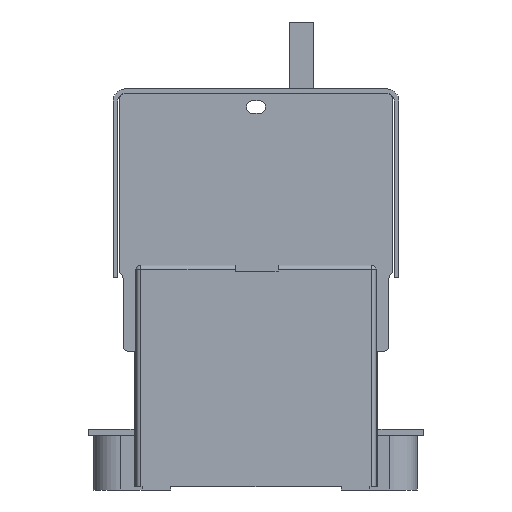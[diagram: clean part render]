
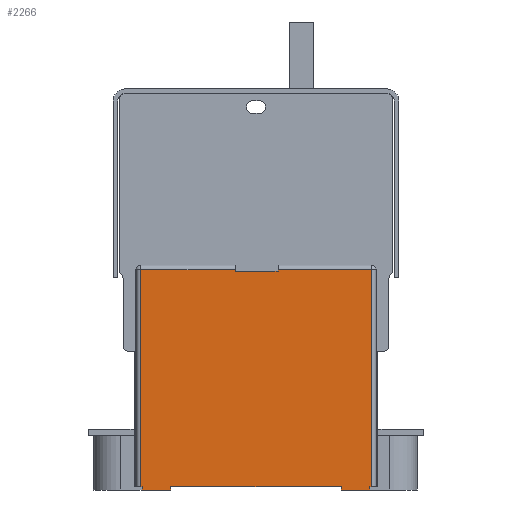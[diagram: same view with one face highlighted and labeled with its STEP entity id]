
A CAD part, left-side view. The second image highlights one B-rep face of the part: STEP entity #2266.
In plain terms, the highlighted planar face has unit normal (-1, 0, 0).
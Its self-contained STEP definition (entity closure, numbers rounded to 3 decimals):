
#2266=ADVANCED_FACE('',(#3847),#2926,.F.);
#2926=PLANE('',#20960);
#3847=FACE_OUTER_BOUND('',#5012,.T.);
#5012=EDGE_LOOP('',(#10019,#10020,#10021,#10022,#10023,#10024,#10025,#10026,
#10027,#10028,#10029,#10030,#10031,#10032,#10033,#10034));
#10019=ORIENTED_EDGE('',*,*,#15156,.F.);
#10020=ORIENTED_EDGE('',*,*,#14946,.T.);
#10021=ORIENTED_EDGE('',*,*,#14770,.T.);
#10022=ORIENTED_EDGE('',*,*,#15158,.F.);
#10023=ORIENTED_EDGE('',*,*,#14773,.T.);
#10024=ORIENTED_EDGE('',*,*,#14906,.T.);
#10025=ORIENTED_EDGE('',*,*,#15159,.T.);
#10026=ORIENTED_EDGE('',*,*,#15160,.T.);
#10027=ORIENTED_EDGE('',*,*,#15161,.F.);
#10028=ORIENTED_EDGE('',*,*,#14993,.F.);
#10029=ORIENTED_EDGE('',*,*,#14998,.T.);
#10030=ORIENTED_EDGE('',*,*,#15162,.T.);
#10031=ORIENTED_EDGE('',*,*,#15006,.F.);
#10032=ORIENTED_EDGE('',*,*,#15000,.F.);
#10033=ORIENTED_EDGE('',*,*,#15163,.T.);
#10034=ORIENTED_EDGE('',*,*,#15164,.T.);
#12221=VERTEX_POINT('',#31231);
#12222=VERTEX_POINT('',#31233);
#12224=VERTEX_POINT('',#31239);
#12225=VERTEX_POINT('',#31240);
#12313=VERTEX_POINT('',#31545);
#12314=VERTEX_POINT('',#31549);
#12360=VERTEX_POINT('',#31730);
#12361=VERTEX_POINT('',#31731);
#12365=VERTEX_POINT('',#31740);
#12366=VERTEX_POINT('',#31745);
#12367=VERTEX_POINT('',#31746);
#12370=VERTEX_POINT('',#31754);
#12461=VERTEX_POINT('',#32042);
#12462=VERTEX_POINT('',#32047);
#12463=VERTEX_POINT('',#32049);
#12464=VERTEX_POINT('',#32053);
#14770=EDGE_CURVE('',#12222,#12221,#16957,.T.);
#14773=EDGE_CURVE('',#12224,#12225,#16959,.T.);
#14906=EDGE_CURVE('',#12225,#12314,#17029,.T.);
#14946=EDGE_CURVE('',#12313,#12222,#17045,.T.);
#14993=EDGE_CURVE('',#12360,#12361,#17080,.T.);
#14998=EDGE_CURVE('',#12360,#12365,#17085,.T.);
#15000=EDGE_CURVE('',#12366,#12367,#17087,.T.);
#15006=EDGE_CURVE('',#12367,#12370,#17093,.T.);
#15156=EDGE_CURVE('',#12313,#12461,#17230,.T.);
#15158=EDGE_CURVE('',#12224,#12221,#17231,.T.);
#15159=EDGE_CURVE('',#12314,#12462,#17232,.T.);
#15160=EDGE_CURVE('',#12462,#12463,#17233,.T.);
#15161=EDGE_CURVE('',#12361,#12463,#17234,.T.);
#15162=EDGE_CURVE('',#12365,#12370,#17235,.T.);
#15163=EDGE_CURVE('',#12366,#12464,#17236,.T.);
#15164=EDGE_CURVE('',#12464,#12461,#17237,.T.);
#16957=LINE('',#31232,#19017);
#16959=LINE('',#31238,#19019);
#17029=LINE('',#31550,#19089);
#17045=LINE('',#31630,#19105);
#17080=LINE('',#31729,#19140);
#17085=LINE('',#31741,#19145);
#17087=LINE('',#31744,#19147);
#17093=LINE('',#31757,#19153);
#17230=LINE('',#32041,#19290);
#17231=LINE('',#32045,#19291);
#17232=LINE('',#32046,#19292);
#17233=LINE('',#32048,#19293);
#17234=LINE('',#32050,#19294);
#17235=LINE('',#32051,#19295);
#17236=LINE('',#32052,#19296);
#17237=LINE('',#32054,#19297);
#19017=VECTOR('',#25290,1.);
#19019=VECTOR('',#25296,1.);
#19089=VECTOR('',#25584,1.);
#19105=VECTOR('',#25696,1.);
#19140=VECTOR('',#25801,1.);
#19145=VECTOR('',#25808,1.);
#19147=VECTOR('',#25812,1.);
#19153=VECTOR('',#25820,1.);
#19290=VECTOR('',#26073,1.);
#19291=VECTOR('',#26078,1.);
#19292=VECTOR('',#26079,1.);
#19293=VECTOR('',#26080,1.);
#19294=VECTOR('',#26081,1.);
#19295=VECTOR('',#26082,1.);
#19296=VECTOR('',#26083,1.);
#19297=VECTOR('',#26084,1.);
#20960=AXIS2_PLACEMENT_3D('',#32055,#26085,#26086);
#25290=DIRECTION('',(0.,0.,-1.));
#25296=DIRECTION('',(0.,0.,1.));
#25584=DIRECTION('',(0.,1.,0.));
#25696=DIRECTION('',(0.,1.,0.));
#25801=DIRECTION('',(0.,1.,0.));
#25808=DIRECTION('',(0.,0.,1.));
#25812=DIRECTION('',(0.,1.,0.));
#25820=DIRECTION('',(0.,0.,1.));
#26073=DIRECTION('',(0.,0.,-1.));
#26078=DIRECTION('',(0.,-1.,0.));
#26079=DIRECTION('',(0.,0.,-1.));
#26080=DIRECTION('',(0.,-1.,0.));
#26081=DIRECTION('',(0.,0.,1.));
#26082=DIRECTION('',(0.,-1.,0.));
#26083=DIRECTION('',(0.,0.,1.));
#26084=DIRECTION('',(0.,-1.,0.));
#26085=DIRECTION('',(1.,0.,0.));
#26086=DIRECTION('',(0.,0.,-1.));
#31231=CARTESIAN_POINT('',(-69.,-31.985,67.));
#31232=CARTESIAN_POINT('',(-69.,-31.985,69.1));
#31233=CARTESIAN_POINT('',(-69.,-31.985,67.6));
#31238=CARTESIAN_POINT('',(-69.,-17.985,69.1));
#31239=CARTESIAN_POINT('',(-69.,-17.985,67.));
#31240=CARTESIAN_POINT('',(-69.,-17.985,67.6));
#31545=CARTESIAN_POINT('',(-69.,-62.735,67.6));
#31549=CARTESIAN_POINT('',(-69.,13.265,67.6));
#31550=CARTESIAN_POINT('',(-69.,13.265,67.6));
#31630=CARTESIAN_POINT('',(-69.,13.265,67.6));
#31729=CARTESIAN_POINT('',(-69.,3.265,-4.9));
#31730=CARTESIAN_POINT('',(-69.,3.265,-4.9));
#31731=CARTESIAN_POINT('',(-69.,12.765,-4.9));
#31740=CARTESIAN_POINT('',(-69.,3.265,-3.9));
#31741=CARTESIAN_POINT('',(-69.,3.265,-5.9));
#31744=CARTESIAN_POINT('',(-69.,-62.235,-4.9));
#31745=CARTESIAN_POINT('',(-69.,-62.235,-4.9));
#31746=CARTESIAN_POINT('',(-69.,-52.735,-4.9));
#31754=CARTESIAN_POINT('',(-69.,-52.735,-3.9));
#31757=CARTESIAN_POINT('',(-69.,-52.735,-5.9));
#32041=CARTESIAN_POINT('',(-69.,-62.735,69.1));
#32042=CARTESIAN_POINT('',(-69.,-62.735,-3.9));
#32045=CARTESIAN_POINT('',(-69.,12.765,67.));
#32046=CARTESIAN_POINT('',(-69.,13.265,69.1));
#32047=CARTESIAN_POINT('',(-69.,13.265,-3.9));
#32048=CARTESIAN_POINT('',(-69.,-62.235,-3.9));
#32049=CARTESIAN_POINT('',(-69.,12.765,-3.9));
#32050=CARTESIAN_POINT('',(-69.,12.765,-5.9));
#32051=CARTESIAN_POINT('',(-69.,-62.235,-3.9));
#32052=CARTESIAN_POINT('',(-69.,-62.235,-5.9));
#32053=CARTESIAN_POINT('',(-69.,-62.235,-3.9));
#32054=CARTESIAN_POINT('',(-69.,-62.235,-3.9));
#32055=CARTESIAN_POINT('',(-69.,-62.235,69.1));
